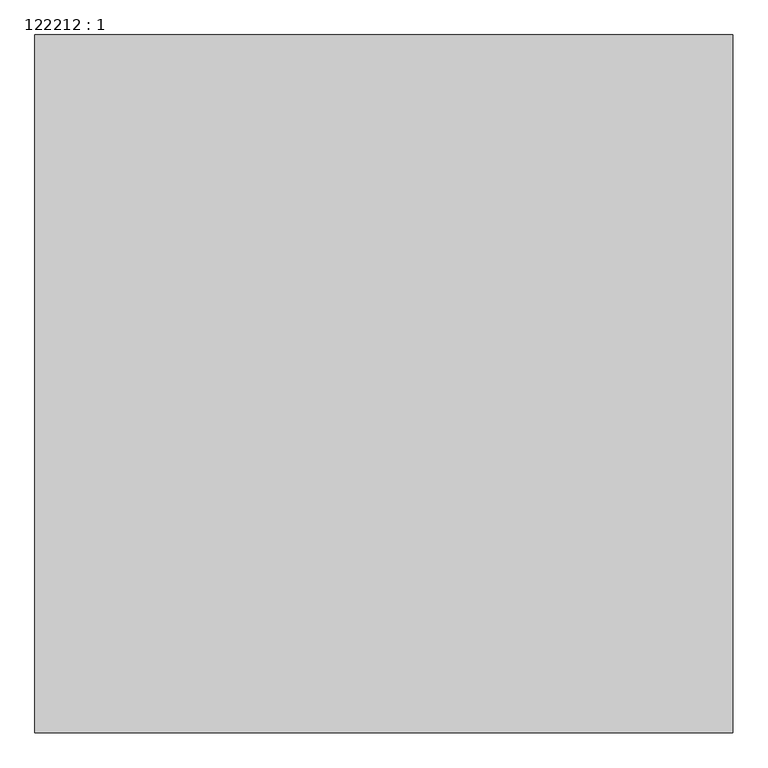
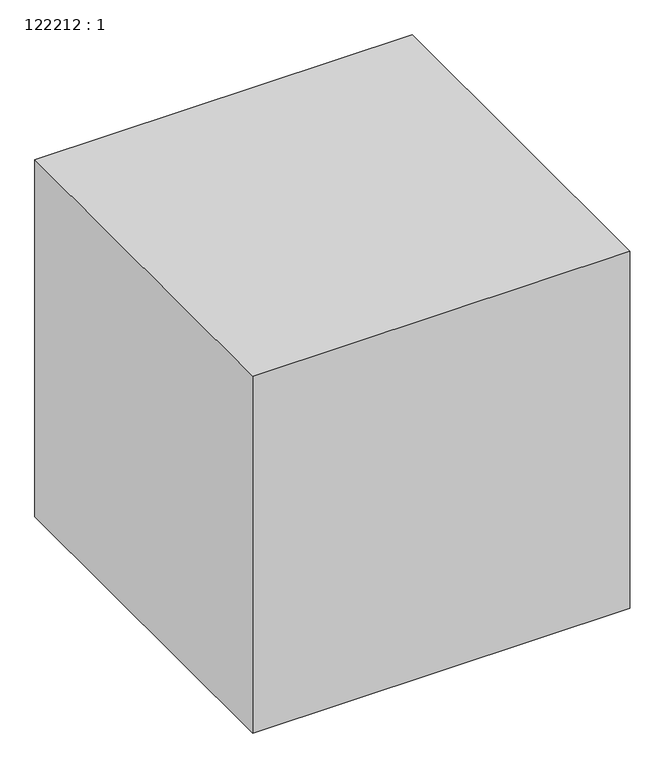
"""IFC4 building model written with IfcOpenShell, lengths in millimetres: proxy geometry, 122212 : 1."""

from ifc_helpers import new_model, si_unit, origin, origin_with_axes, place, context, project, spatial, polyline, outline, extrude, source, transform, mapped, element, save


def proxy_122212_1_969e0d6c(model_context):
    return source(origin(), model_context, "Body", "SweptSolid", [
        extrude(outline(polyline([(-8307.9756708, 7335.2294472), (-8307.9756708, 6335.2294472), (-9307.9756708, 6335.2294472), (-9307.9756708, 7335.2294472), (-8307.9756708, 7335.2294472)])), origin_with_axes(), (0.0, 0.0, 1.0), 1000.0),
    ])


if __name__ == "__main__":
    model = new_model("IFC4")
    model_context = context("Model", 3, world=origin())
    ifc_project = project(units=[si_unit("LENGTHUNIT", "METRE", prefix="MILLI")], contexts=[model_context])
    site = spatial("IfcSite", under=ifc_project)
    building = spatial("IfcBuilding", under=site)
    placement = place(None, origin())
    proxy_122212_1_shape = proxy_122212_1_969e0d6c(model_context)
    element("IfcBuildingElementProxy", 1, Name="122212 : 1", ObjectType="122212 : 1", at=placement, inside=building, context=model_context, shape_type="MappedRepresentation", body=[
        mapped(proxy_122212_1_shape, transform((0.0, 0.0, 0.0), x_axis=(1.0, 0.0, 0.0), y_axis=(0.0, 1.0, 0.0), z_axis=(0.0, 0.0, 1.0))),
    ])
    save(model, "model.ifc")
